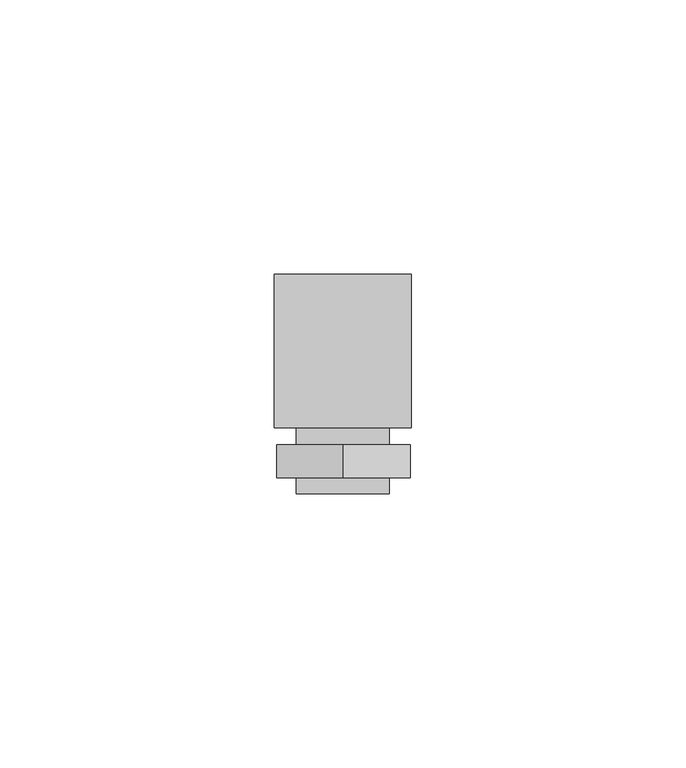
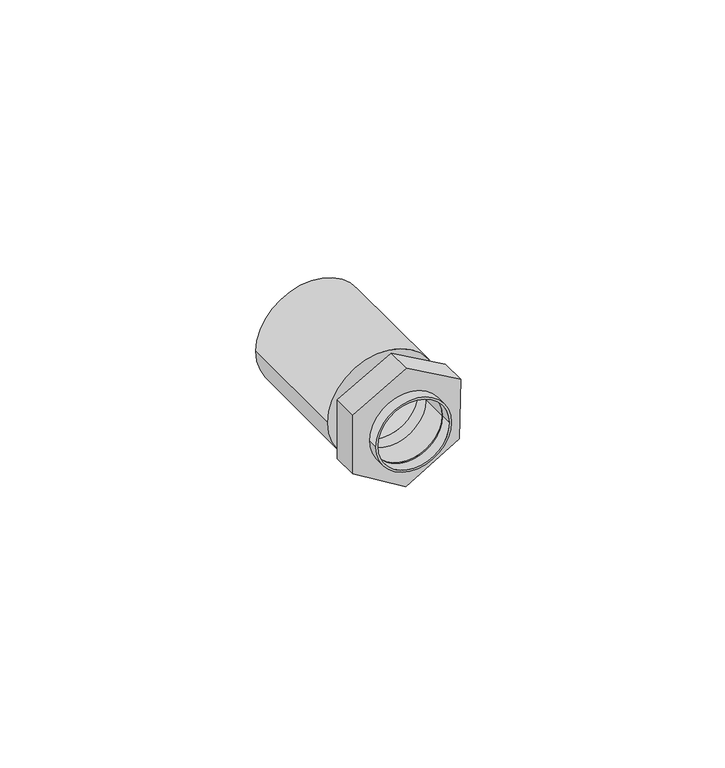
"""IFC4 building model written with IfcOpenShell, lengths in millimetres: cable carrier fitting geometry, Муфта_вводная_для_гофротрубы : Муфта вводная для гофротрубы 16мм."""

from ifc_helpers import new_model, si_unit, point, frame, frame_2d, origin, place, context, project, spatial, polyline, circle_curve, trimmed, segment, composite_curve, outline, extrude, source, transform, mapped, element, save


def cable_carrier_fitting_4611c645(model_context):
    return source(origin(), model_context, "Body", "SweptSolid", [
        extrude(outline(polyline([(-6.8809633, 12.0), (7.1141636, 12.369353), (14.0110654, 0.1860552), (7.1190367, -12.0), (-6.8809633, -12.0), (-14.0920659, 0.0), (-6.8809633, 12.0)]), holes=[composite_curve([segment(trimmed(circle_curve(frame_2d((0.0057257, 0.0905136)), 8.0), [point((0.0057257, 8.0905136))], [point((0.0057257, -7.9094864))], True, "CARTESIAN"), True, "CONTINUOUS"), segment(trimmed(circle_curve(frame_2d((0.0057257, 0.0905136)), 8.0), [point((0.0057257, -7.9094864))], [point((0.0057257, 8.0905136))], True, "CARTESIAN"), True, "CONTINUOUS")], self_intersect=False)]), frame((0.0, -37.1018563, 0.0), z_axis=(0.0, 1.0, 0.0), x_axis=(0.0, 0.0, 1.0)), (0.0, 0.0, 1.0), 6.0),
        extrude(outline(composite_curve([segment(trimmed(circle_curve(frame_2d((0.0032191, 0.0900025)), 8.5), [point((0.0032191, -8.4099975))], [point((0.0032191, 8.5900025))], False, "CARTESIAN"), True, "CONTINUOUS"), segment(trimmed(circle_curve(frame_2d((0.0032191, 0.0900025)), 8.5), [point((0.0032191, 8.5900025))], [point((0.0032191, -8.4099975))], False, "CARTESIAN"), True, "CONTINUOUS")], self_intersect=False), holes=[composite_curve([segment(trimmed(circle_curve(frame_2d((0.0057257, 0.0905136)), 8.0), [point((0.0057257, 8.0905136))], [point((0.0057257, -7.9094864))], True, "CARTESIAN"), True, "CONTINUOUS"), segment(trimmed(circle_curve(frame_2d((0.0057257, 0.0905136)), 8.0), [point((0.0057257, -7.9094864))], [point((0.0057257, 8.0905136))], True, "CARTESIAN"), True, "CONTINUOUS")], self_intersect=False)]), frame((0.0, -40.0, 0.0), z_axis=(0.0, 1.0, 0.0), x_axis=(0.0, 0.0, 1.0)), (0.0, 0.0, 1.0), 12.0),
        extrude(outline(composite_curve([segment(trimmed(circle_curve(frame_2d((0.0, 0.0905136)), 12.5), [point((0.0, -12.4094864))], [point((0.0, 12.5905136))], False, "CARTESIAN"), True, "CONTINUOUS"), segment(trimmed(circle_curve(frame_2d((0.0, 0.0905136)), 12.5), [point((0.0, 12.5905136))], [point((0.0, -12.4094864))], False, "CARTESIAN"), True, "CONTINUOUS")], self_intersect=False), holes=[composite_curve([segment(trimmed(circle_curve(frame_2d((0.0057257, 0.0905136)), 8.0), [point((0.0057257, 8.0905136))], [point((0.0057257, -7.9094864))], True, "CARTESIAN"), True, "CONTINUOUS"), segment(trimmed(circle_curve(frame_2d((0.0057257, 0.0905136)), 8.0), [point((0.0057257, -7.9094864))], [point((0.0057257, 8.0905136))], True, "CARTESIAN"), True, "CONTINUOUS")], self_intersect=False)]), frame((0.0, -28.0, 0.0), z_axis=(0.0, 1.0, 0.0), x_axis=(0.0, 0.0, 1.0)), (0.0, 0.0, 1.0), 28.0),
    ])


if __name__ == "__main__":
    model = new_model("IFC4")
    model_context = context("Model", 3, world=origin())
    ifc_project = project(units=[si_unit("LENGTHUNIT", "METRE", prefix="MILLI")], contexts=[model_context])
    site = spatial("IfcSite", under=ifc_project)
    building = spatial("IfcBuilding", under=site)
    placement = place(None, origin())
    cable_carrier_fitting_shape = cable_carrier_fitting_4611c645(model_context)
    element("IfcCableCarrierFitting", 1, ObjectType="Муфта_вводная_для_гофротрубы : Муфта вводная для гофротрубы 16мм", at=placement, inside=building, context=model_context, shape_type="MappedRepresentation", body=[
        mapped(cable_carrier_fitting_shape, transform((0.0, 0.0, 0.0), x_axis=(1.0, 0.0, 0.0), y_axis=(0.0, 1.0, 0.0), z_axis=(0.0, 0.0, 1.0))),
    ])
    save(model, "model.ifc")
